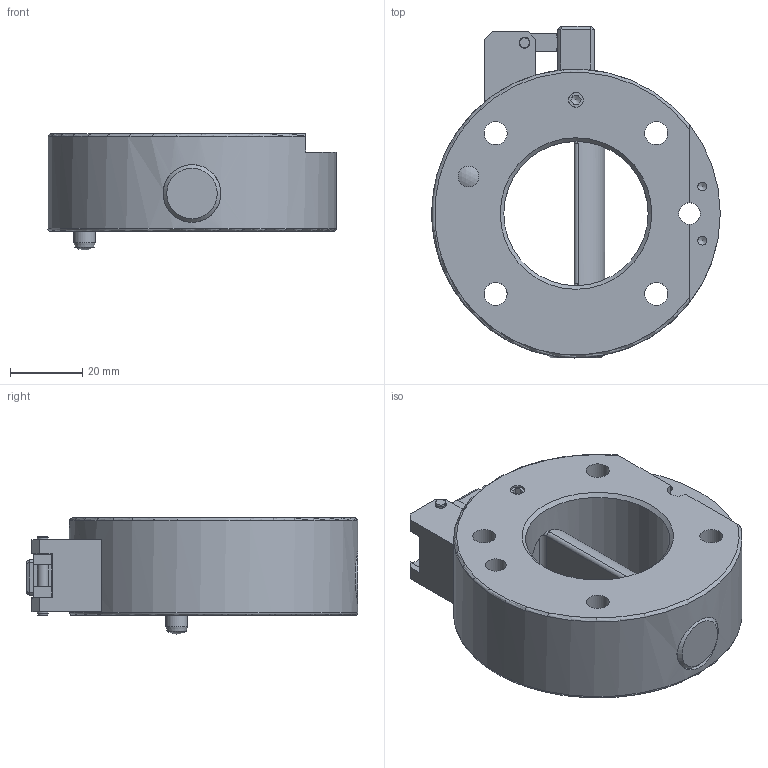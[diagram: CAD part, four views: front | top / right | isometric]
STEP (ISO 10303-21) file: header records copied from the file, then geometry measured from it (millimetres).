
FILE_DESCRIPTION((''),'2;1');
FILE_NAME('T:\CAD\Standard\Daten\3D-Datenbank\SWS\SWS080\step-Daten\G-SWS080-2OE-VS2.stp','2011-08-19T10:48:11',('Yvonne'),(''),'Autodesk Inventor 2011','Autodesk Inventor 2011','');
FILE_SCHEMA(('AUTOMOTIVE_DESIGN { 1 0 10303 214 1 1 1 1 }'));
Length unit declared in the file: millimetre
Products named in the file (1): Bauteil1
Bounding box: 79.98 x 92 x 32.17 mm (x, y, z)
Volume: 102085 mm3; surface area: 25835.1 mm2
Topology: 1 solids, 2 shells, 175 faces, 426 edges, 271 vertices
Faces by surface type: plane 83, cylinder 55, cone 23, torus 8, bspline 4, sphere 2
Full cylindrical faces by diameter (mm): 2.459 x4, 3 x7, 3.4 x2, 3.5 x1, 4.134 x3, 5.5 x2, 5.8 x1, 6 x2, 6.4 x4, 6.5 x2, 11 x4, 16 x2, 40 x1, 80 x1
Entity records: 5300 total; most frequent: CARTESIAN_POINT 1438, DIRECTION 748, ORIENTED_EDGE 678, EDGE_CURVE 339, AXIS2_PLACEMENT_3D 301, EDGE_LOOP 273, VERTEX_POINT 244, FACE_OUTER_BOUND 175
